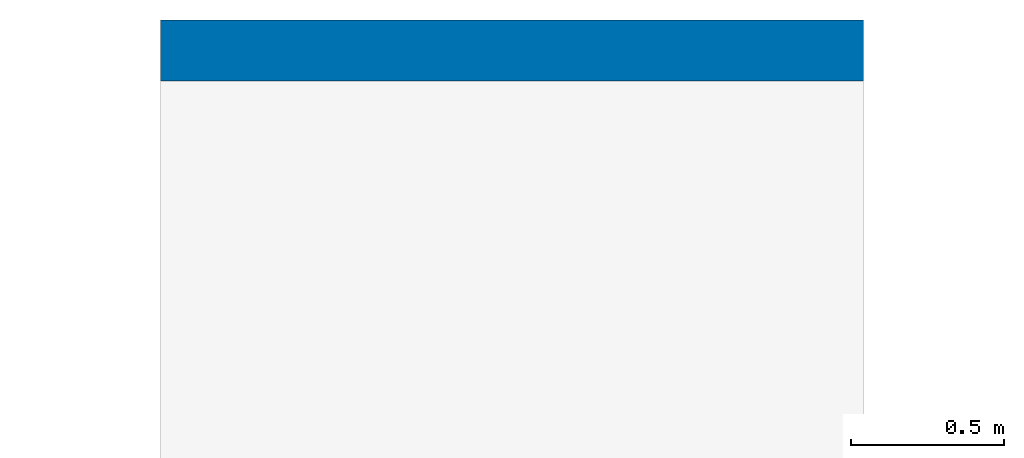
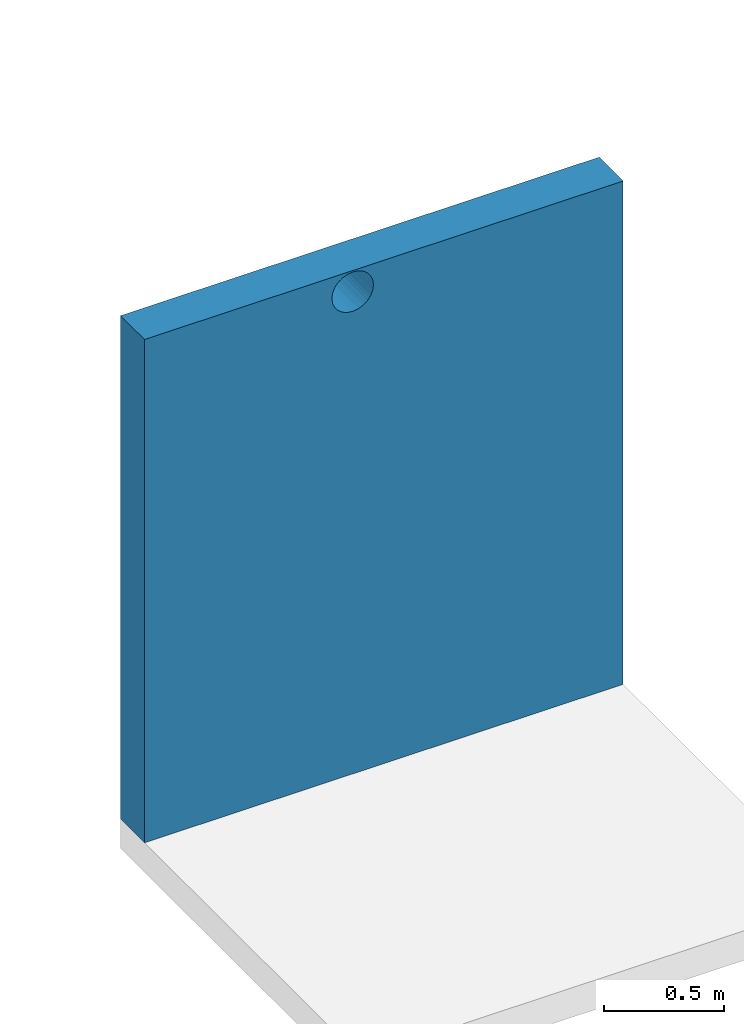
# One storey, part 2 of 3: 1 wall, 1 opening.
"""IFC4 building model written with IfcOpenShell, lengths in millimetres."""

from ifc_helpers import new_model, entity, si_unit, converted_unit, derived_unit, direction, frame, origin, place, context, subcontext, project, spatial, indexed_curve, outline, extrude, polygons, material, layer, layer_set, type_object, element, save


model = new_model("IFC4")

# Units and contexts
model_context = context("Model", 3, precision=0.01, world=origin(), true_north=direction((6.12303176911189e-17, 1.0)))
body_context = subcontext(model_context, "Body", "Model", "MODEL_VIEW")
ifc_project = project(units=[si_unit("LENGTHUNIT", "METRE", prefix="MILLI"), si_unit("AREAUNIT", "SQUARE_METRE"), si_unit("VOLUMEUNIT", "CUBIC_METRE"), converted_unit("PLANEANGLEUNIT", "DEGREE", entity("IfcRatioMeasure", 0.0174532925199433), si_unit("PLANEANGLEUNIT", "RADIAN"), dimensions=[0, 0, 0, 0, 0, 0, 0]), si_unit("MASSUNIT", "GRAM", prefix="KILO"), derived_unit("MASSDENSITYUNIT", [(si_unit("MASSUNIT", "GRAM", prefix="KILO"), 1), (si_unit("LENGTHUNIT", "METRE"), -3)]), si_unit("TIMEUNIT", "SECOND"), si_unit("FREQUENCYUNIT", "HERTZ"), si_unit("THERMODYNAMICTEMPERATUREUNIT", "DEGREE_CELSIUS"), derived_unit("THERMALTRANSMITTANCEUNIT", [(si_unit("MASSUNIT", "GRAM", prefix="KILO"), 1), (si_unit("THERMODYNAMICTEMPERATUREUNIT", "KELVIN"), -1), (si_unit("TIMEUNIT", "SECOND"), -3)]), derived_unit("VOLUMETRICFLOWRATEUNIT", [(si_unit("LENGTHUNIT", "METRE"), 3), (si_unit("TIMEUNIT", "SECOND"), -1)]), si_unit("ELECTRICCURRENTUNIT", "AMPERE"), si_unit("ELECTRICVOLTAGEUNIT", "VOLT"), si_unit("POWERUNIT", "WATT"), si_unit("FORCEUNIT", "NEWTON", prefix="KILO"), si_unit("ILLUMINANCEUNIT", "LUX"), si_unit("LUMINOUSFLUXUNIT", "LUMEN"), si_unit("LUMINOUSINTENSITYUNIT", "CANDELA"), derived_unit("USERDEFINED", [(si_unit("MASSUNIT", "GRAM", prefix="KILO"), -1), (si_unit("LENGTHUNIT", "METRE"), -2), (si_unit("TIMEUNIT", "SECOND"), 3), (si_unit("LUMINOUSFLUXUNIT", "LUMEN"), 1)]), derived_unit("LINEARVELOCITYUNIT", [(si_unit("LENGTHUNIT", "METRE"), 1), (si_unit("TIMEUNIT", "SECOND"), -1)]), si_unit("PRESSUREUNIT", "PASCAL"), derived_unit("USERDEFINED", [(si_unit("LENGTHUNIT", "METRE"), -2), (si_unit("MASSUNIT", "GRAM", prefix="KILO"), 1), (si_unit("TIMEUNIT", "SECOND"), -2)])], contexts=[model_context])

# Site, building, storey
site_placement = place(None, origin())
site = spatial("IfcSite", under=ifc_project, at=site_placement, Name="Default", CompositionType="ELEMENT")
building_placement = place(site_placement, origin())
building = spatial("IfcBuilding", under=site, at=building_placement, CompositionType="ELEMENT")
storey_placement = place(building_placement, frame((0.0, 0.0, 113.901971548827)))
storey = spatial("IfcBuildingStorey", under=building, at=storey_placement, Name="Level 1", CompositionType="ELEMENT", Elevation=113.901971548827)

# Wall, opening
ifc_material = material(Name="Default Wall", Category="Materials")
ifc_layer = layer(ifc_material, 200.0, Name="Default Wall", Category="Materials")
ifc_layer_set = layer_set([ifc_layer], Name="Basic Wall:Generic - 200mm")
wall_type = type_object("IfcWallType", Name="Basic Wall:Generic - 200mm", PredefinedType="NOTDEFINED", material=ifc_layer_set)
wall_placement = place(storey_placement, frame((-11884.8881114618, 3492.24351176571, 0.0)))
wall = element("IfcWall", 1, at=wall_placement, inside=storey, type_object=wall_type, material=ifc_layer_set, Name="Basic Wall:Generic - 200mm", ObjectType="Basic Wall:Generic - 200mm", PredefinedType="NOTDEFINED", context=body_context, shape_type="Tessellation", body=[
    polygons([(-3.51086513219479e-13, -100.0, 0.0), (2300.0, -100.0, 0.0), (2300.0, -100.0, 2556.99999999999), (-3.51086513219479e-13, -100.0, 2556.99999999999), (1099.99999999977, -100.000000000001, 2449.99999999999), (1096.59258262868, -100.000000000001, 2424.11809548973), (1086.60254037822, -100.000000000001, 2399.99999999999), (1070.71067811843, -100.000000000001, 2379.28932188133), (1049.99999999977, -100.0, 2363.39745962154), (1025.88190451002, -100.0, 2353.40741737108), (999.999999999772, -100.0, 2349.99999999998), (974.11809548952, -100.0, 2353.40741737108), (949.999999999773, -100.000000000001, 2363.39745962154), (929.289321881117, -100.000000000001, 2379.28932188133), (913.397459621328, -100.000000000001, 2399.99999999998), (903.407417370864, -100.0, 2424.11809548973), (899.999999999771, -100.0, 2449.99999999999), (903.407417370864, -100.0, 2475.88190451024), (913.397459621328, -100.000000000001, 2499.99999999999), (929.289321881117, -100.000000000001, 2520.71067811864), (949.999999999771, -100.000000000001, 2536.60254037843), (974.11809548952, -100.0, 2546.59258262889), (999.999999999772, -100.0, 2549.99999999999), (1025.88190451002, -100.0, 2546.59258262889), (1049.99999999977, -100.0, 2536.60254037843), (1070.71067811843, -100.000000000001, 2520.71067811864), (1086.60254037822, -100.000000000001, 2499.99999999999), (1096.59258262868, -100.000000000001, 2475.88190451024), (-1.01022302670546e-12, 100.0, 0.0), (-1.01022302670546e-12, 100.0, 2556.99999999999), (2300.0, 100.0, 2556.99999999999), (2300.0, 100.0, 0.0), (1099.99999999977, 99.9999999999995, 2449.99999999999), (1096.59258262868, 99.9999999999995, 2475.88190451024), (1086.60254037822, 99.9999999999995, 2499.99999999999), (1070.71067811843, 99.9999999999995, 2520.71067811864), (1049.99999999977, 100.0, 2536.60254037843), (1025.88190451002, 100.0, 2546.59258262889), (999.999999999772, 100.0, 2549.99999999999), (974.118095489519, 100.0, 2546.59258262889), (949.99999999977, 99.9999999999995, 2536.60254037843), (929.289321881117, 99.9999999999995, 2520.71067811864), (913.397459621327, 99.9999999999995, 2499.99999999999), (903.407417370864, 100.0, 2475.88190451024), (899.999999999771, 100.0, 2449.99999999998), (903.407417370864, 100.0, 2424.11809548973), (913.397459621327, 99.9999999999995, 2399.99999999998), (929.289321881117, 99.9999999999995, 2379.28932188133), (949.999999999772, 99.9999999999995, 2363.39745962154), (974.118095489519, 100.0, 2353.40741737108), (999.999999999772, 100.0, 2349.99999999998), (1025.88190451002, 100.0, 2353.40741737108), (1049.99999999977, 100.0, 2363.39745962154), (1070.71067811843, 99.9999999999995, 2379.28932188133), (1086.60254037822, 99.9999999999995, 2399.99999999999), (1096.59258262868, 99.9999999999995, 2424.11809548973)], [[[4, 1, 2, 3], [16, 17, 18, 19, 20, 21, 22, 23, 24, 25, 26, 27, 28, 5, 6, 7, 8, 9, 10, 11, 12, 13, 14, 15]], [[31, 32, 29, 30], [55, 56, 33, 34, 35, 36, 37, 38, 39, 40, 41, 42, 43, 44, 45, 46, 47, 48, 49, 50, 51, 52, 53, 54]], [[2, 1, 29, 32]], [[3, 2, 32, 31]], [[4, 3, 31, 30]], [[1, 4, 30, 29]], [[7, 6, 56, 55]], [[7, 55, 54, 8]], [[10, 9, 53, 52]], [[54, 53, 9, 8]], [[11, 10, 52, 51]], [[5, 33, 56, 6]], [[13, 12, 50, 49]], [[13, 49, 48, 14]], [[16, 15, 47, 46]], [[48, 47, 15, 14]], [[17, 16, 46, 45]], [[51, 50, 12, 11]], [[44, 18, 17, 45]], [[22, 21, 41, 40]], [[20, 42, 41, 21]], [[23, 22, 40, 39]], [[19, 18, 44, 43]], [[43, 42, 20, 19]], [[25, 24, 38, 37]], [[25, 37, 36, 26]], [[28, 27, 35, 34]], [[36, 35, 27, 26]], [[5, 28, 34, 33]], [[39, 38, 24, 23]]], closed=True),
])
opening_placement = place(wall_placement, origin())
element("IfcOpeningElement", 2, at=opening_placement, cuts=wall, Name="Basic Wall:Generic - 200mm", ObjectType="Opening", PredefinedType="OPENING", context=body_context, shape_type="SweptSolid", body=[
    extrude(outline(indexed_curve([(-100.000000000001, 0.0), (-95.1056516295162, -30.9016994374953), (-80.9016994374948, -58.7785252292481), (-58.7785252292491, -80.9016994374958), (-30.9016994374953, -95.1056516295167), (0.0, -100.000000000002), (30.9016994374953, -95.1056516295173), (58.778525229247, -80.9016994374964), (80.9016994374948, -58.7785252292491), (95.1056516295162, -30.9016994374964), (100.000000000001, -1.08286712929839e-12), (95.1056516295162, 30.9016994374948), (80.9016994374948, 58.7785252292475), (58.778525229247, 80.9016994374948), (30.9016994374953, 95.1056516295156), (0.0, 100.000000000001), (-30.9016994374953, 95.1056516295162), (-58.778525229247, 80.9016994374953), (-80.9016994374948, 58.7785252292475), (-95.1056516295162, 30.9016994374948), (-100.000000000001, 0.0)], self_intersect=False)), frame((1000.0, 100.0, 2450.0), z_axis=(0.0, -1.0, 0.0), x_axis=(-1.0, 0.0, 0.0)), (0.0, 0.0, 1.0), 200.0),
])

save(model, "model.ifc")
